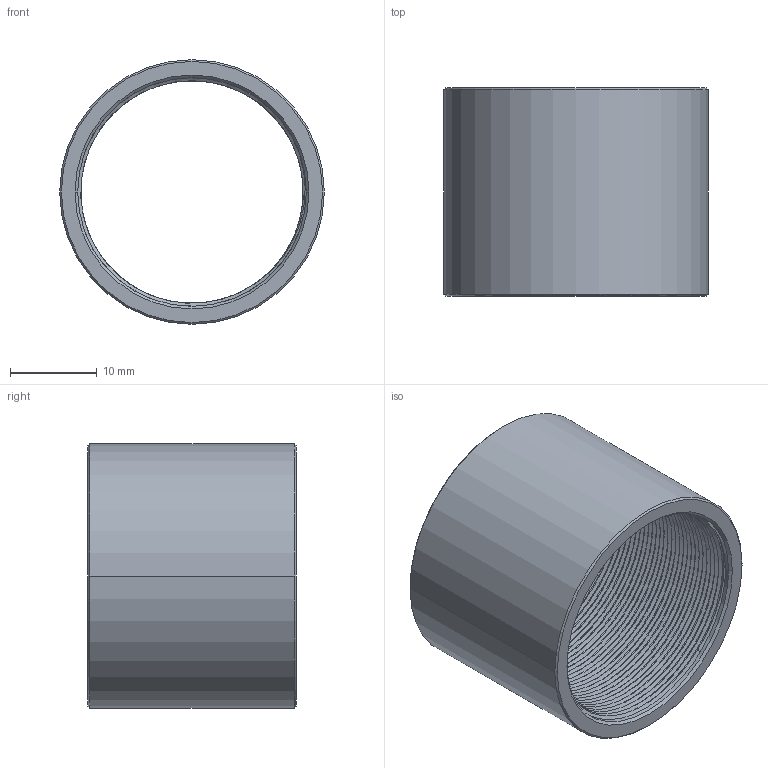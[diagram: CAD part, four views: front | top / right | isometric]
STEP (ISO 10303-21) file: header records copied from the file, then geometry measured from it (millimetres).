
FILE_DESCRIPTION((''),'2;1');
FILE_NAME('CSB-24','2020-10-15T',('Administrator'),(''),'CREO PARAMETRIC BY PTC INC, 2015290','CREO PARAMETRIC BY PTC INC, 2015290','');
FILE_SCHEMA(('CONFIG_CONTROL_DESIGN'));
Length unit declared in the file: millimetre
Products named in the file (1): CSB-24
Bounding box: 30.5 x 24 x 30.5 mm (x, y, z)
Volume: 4685.5 mm3; surface area: 5612.3 mm2
Topology: 1 solids, 1 shells, 105 faces, 291 edges, 188 vertices
Faces by surface type: cylinder 73, bspline 22, cone 8, plane 2
Entity records: 12648 total; most frequent: CARTESIAN_POINT 10325, ORIENTED_EDGE 582, DIRECTION 300, EDGE_CURVE 291, VERTEX_POINT 188, B_SPLINE_CURVE_WITH_KNOTS 173, EDGE_LOOP 107, FACE_OUTER_BOUND 105
